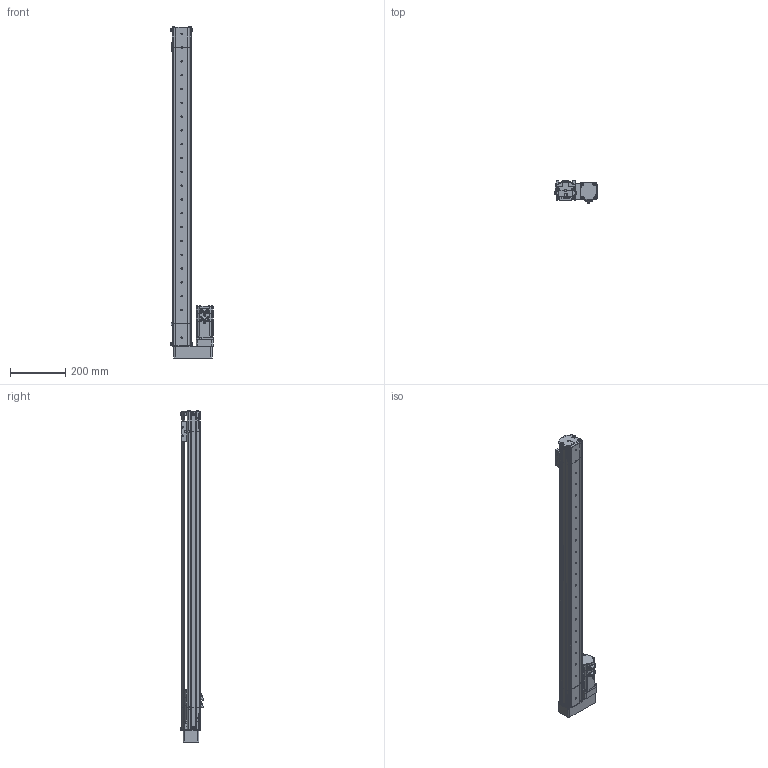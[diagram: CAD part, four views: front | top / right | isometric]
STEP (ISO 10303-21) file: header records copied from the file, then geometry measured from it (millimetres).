
FILE_DESCRIPTION (( 'STEP AP214' ), '1' );
FILE_NAME ('S07 TS BR S1000.STEP', '2010-06-29T11:18:45', ( 'Conseil Régional Haute-Normandie' ), ( 'Conseil Régional Haute-Normandie' ), 'SwSTEP 2.0', 'SolidWorks 2010', '' );
FILE_SCHEMA (( 'AUTOMOTIVE_DESIGN' ));
Length unit declared in the file: millimetre
Products named in the file (35): Arbre+rail tail78; chariot_Default; arbre S07 moteur; P1_Default; P2 90A_Default; GMB 60 90 310_Default; corp moteur BR(124)_Default; Course 1000_Default; VisM3_Default; Conecteur2 60BLDC_Default; Vis M5 L16-2_Default; Conecteur 60BLDC_Default; Axe 60BLDC_Default; P4_Default; Corp S07 course 1000_Default; P3 90A_Default; guide; Chariot; plaque de bout_Default; couvercle S07 (78); vis M5 L16_Default; plaque de bout BR_Default; Plaque racord_Default; couvercle S07 course 1000 ; arbre + rail Course 1000 ; couvercle moteur S07 BR(124); vis M5 L12_Default; S07 TS BR S1000; vis M5 L5_Default; S07 tail (78)_Default; corp couvert coupé_Default; T皻e d''axe Haut 2_Default; T皻e d''axe bas_Default; rail S07 moteur; S07 BR(124)_Default
Assembly tree (61 placements, depth 4):
  S07 TS BR S1000
    S07 BR(124)_Default
      Vis M5 L16-2_Default  x4
      vis M5 L5_Default  x2
      plaque de bout BR_Default
      Plaque racord_Default
      corp moteur BR(124)_Default
      rail S07 moteur
      vis M5 L12_Default  x2
      GMB 60 90 310_Default
        P2 90A_Default
        Conecteur 60BLDC_Default
        VisM3_Default  x12
        Conecteur2 60BLDC_Default
        P3 90A_Default
        Axe 60BLDC_Default
        P1_Default
        P4_Default
      couvercle moteur S07 BR(124)
      arbre S07 moteur
    chariot_Default
      Chariot
      vis M5 L12_Default  x2
      guide
    Course 1000_Default
      arbre + rail Course 1000 
      Corp S07 course 1000_Default
      couvercle S07 course 1000 
    S07 tail (78)_Default
      vis M5 L12_Default  x8
      corp couvert coupé_Default
      vis M5 L16_Default  x2
      T皻e d''axe bas_Default
      couvercle S07 (78)
      Arbre+rail tail78
      T皻e d''axe Haut 2_Default
      plaque de bout_Default
Bounding box: 152.2 x 83.7 x 1202 mm (x, y, z)
Volume: 2660162.9 mm3; surface area: 962293.3 mm2
Topology: 82 solids, 82 shells, 3380 faces, 8508 edges, 5527 vertices
Faces by surface type: plane 1909, bspline 677, cylinder 609, torus 96, cone 89
Entity records: 158956 total; most frequent: CARTESIAN_POINT 73695, ORIENTED_EDGE 14272, DIRECTION 11047, EDGE_CURVE 7136, VERTEX_POINT 4717, VECTOR 4673, LINE 4673, AXIS2_PLACEMENT_3D 3187
